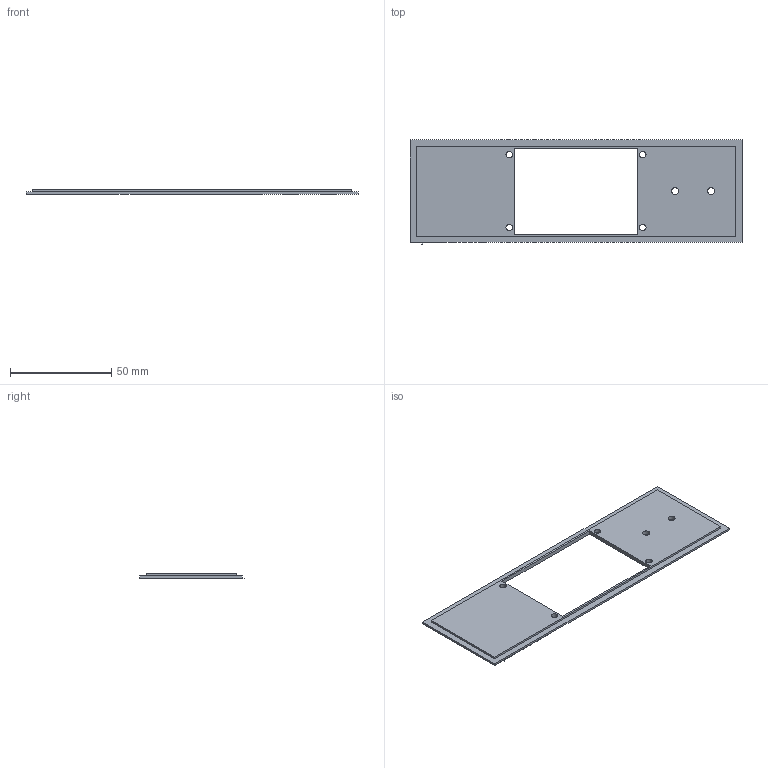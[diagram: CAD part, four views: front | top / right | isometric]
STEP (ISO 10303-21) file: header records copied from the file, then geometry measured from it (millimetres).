
FILE_DESCRIPTION(('FreeCAD Model'),'2;1');
FILE_NAME('Open CASCADE Shape Model','2026-06-30T17:54:21',('Author'),( ''),'Open CASCADE STEP processor 7.8','FreeCAD','Unknown');
FILE_SCHEMA(('AUTOMOTIVE_DESIGN { 1 0 10303 214 1 1 1 1 }'));
Length unit declared in the file: millimetre
Products named in the file (7): Front_Panel_164x50_5_Text_v12_2color_inlay; Text_Repeater_Controller_FrontShapeString; Black_Text_Inlay_v12; Text_JI1FGX_DU9_FrontShapeString; White_Panel_v12; Text_RX_FrontShapeString; Text_TX_FrontShapeString
Assembly tree (6 placements, depth 2):
  Front_Panel_164x50_5_Text_v12_2color_inlay
    Text_Repeater_Controller_FrontShapeString
    Black_Text_Inlay_v12
    Text_JI1FGX_DU9_FrontShapeString
    White_Panel_v12
    Text_RX_FrontShapeString
    Text_TX_FrontShapeString
Bounding box: 164 x 51.41 x 2.01 mm (x, y, z)
Volume: 10023.5 mm3; surface area: 13432.7 mm2
Topology: 33 solids, 65 shells, 1261 faces, 3904 edges, 2786 vertices
Faces by surface type: extrusion 714, plane 541, cylinder 6
Full cylindrical faces by diameter (mm): 3.2 x4, 3.5 x2
Entity records: 46412 total; most frequent: CARTESIAN_POINT 15046, ORIENTED_EDGE 7258, DIRECTION 3953, EDGE_CURVE 3904, VECTOR 2821, VERTEX_POINT 2786, B_SPLINE_CURVE_WITH_KNOTS 2499, LINE 2107
